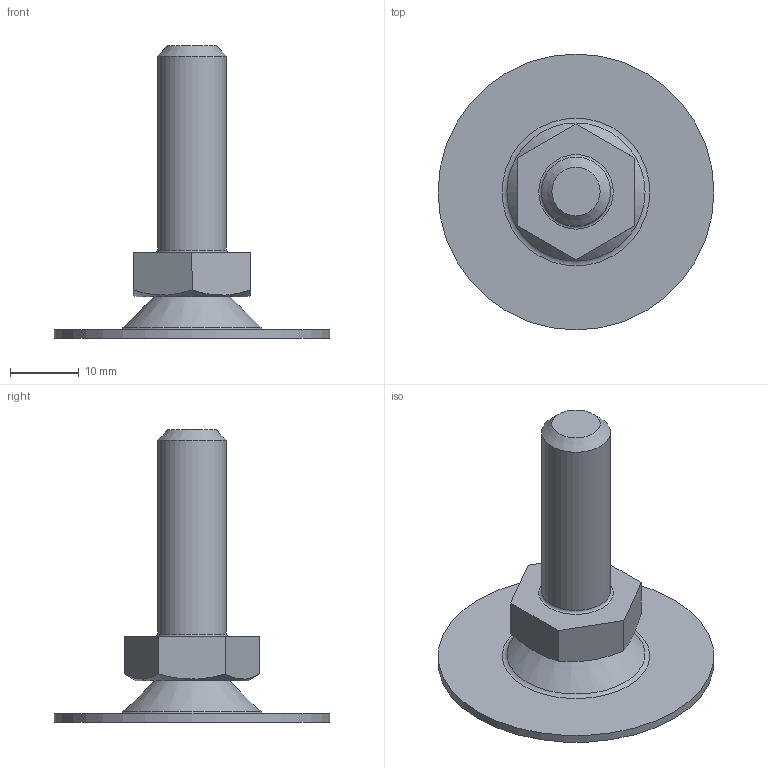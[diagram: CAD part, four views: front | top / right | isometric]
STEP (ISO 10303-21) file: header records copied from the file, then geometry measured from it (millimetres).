
FILE_DESCRIPTION(('STEP AP203'), '1');
FILE_NAME('A00050.1041016', '', ('UNSPECIFIED'), ('UNSPECIFIED'), 'C3D Converter', 'C3D Toolkit', '');
FILE_SCHEMA(('CONFIG_CONTROL_DESIGN'));
Length unit declared in the file: millimetre
Products named in the file (4): A00050.1041030; A00050.1040
Assembly tree (3 placements, depth 2):
  A00050.1041030
    A00050.1040
    (unnamed)
    (unnamed)
Bounding box: 40 x 40 x 42.38 mm (x, y, z)
Volume: 5527.7 mm3; surface area: 5042.4 mm2
Topology: 3 solids, 3 shells, 58 faces, 130 edges, 82 vertices
Faces by surface type: plane 28, torus 8, bspline 8, cone 7, cylinder 6, sphere 1
Full cylindrical faces by diameter (mm): 3.3 x1, 4 x1, 4.5 x1, 8 x1, 10 x1, 40 x1
Entity records: 2171 total; most frequent: CARTESIAN_POINT 784, DIRECTION 242, ORIENTED_EDGE 214, EDGE_CURVE 107, AXIS2_PLACEMENT_3D 95, EDGE_LOOP 86, VERTEX_POINT 81, ADVANCED_FACE 58
